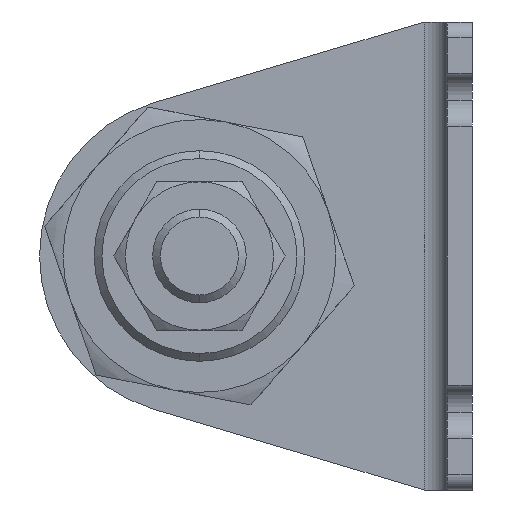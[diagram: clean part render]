
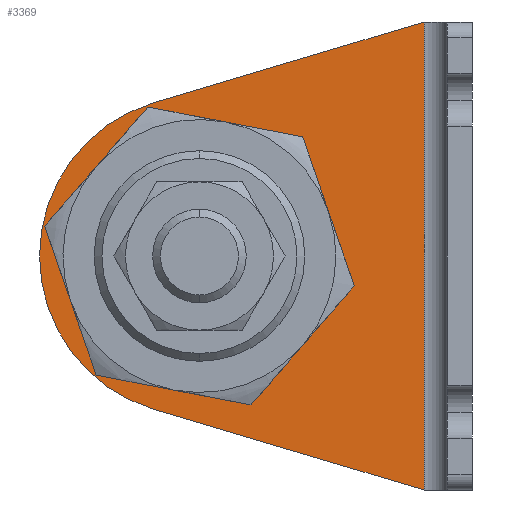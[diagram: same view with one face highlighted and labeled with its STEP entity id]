
A CAD part, left-side view. The second image highlights one B-rep face of the part: STEP entity #3369.
In plain terms, the highlighted planar face has unit normal (-1, 0, 0) as drawn and (1, 0, 0) by its records, which use the part's own axes.
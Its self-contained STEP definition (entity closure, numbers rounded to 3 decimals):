
#1 = CARTESIAN_POINT ( 'NONE',  ( 3.2, 3.446, -60.823 ) ) ;
#60 = AXIS2_PLACEMENT_3D ( 'NONE', #873, #3519, #1527 ) ;
#152 = VERTEX_POINT ( 'NONE', #4277 ) ;
#171 = DIRECTION ( 'NONE',  ( 1., 0., 0. ) ) ;
#172 = CARTESIAN_POINT ( 'NONE',  ( 3.2, 48.5, -30. ) ) ;
#232 = CIRCLE ( 'NONE', #60, 20.5 ) ;
#310 = AXIS2_PLACEMENT_3D ( 'NONE', #1327, #663, #3639 ) ;
#443 = PLANE ( 'NONE',  #1326 ) ;
#498 = CARTESIAN_POINT ( 'NONE',  ( 3.2, 19.903, -4.094 ) ) ;
#536 = DIRECTION ( 'NONE',  ( 0., 0.958, -0.286 ) ) ;
#548 = ORIENTED_EDGE ( 'NONE', *, *, #2509, .F. ) ;
#663 = DIRECTION ( 'NONE',  ( 1., 0., 0. ) ) ;
#873 = CARTESIAN_POINT ( 'NONE',  ( 3.2, 35., -30. ) ) ;
#884 = CARTESIAN_POINT ( 'NONE',  ( 3.2, 35., -30. ) ) ;
#941 = EDGE_CURVE ( 'NONE', #4017, #3509, #4116, .T. ) ;
#968 = DIRECTION ( 'NONE',  ( 0., 0.958, 0.286 ) ) ;
#1098 = LINE ( 'NONE', #1793, #2747 ) ;
#1126 = EDGE_LOOP ( 'NONE', ( #3737, #4254 ) ) ;
#1157 = LINE ( 'NONE', #498, #1408 ) ;
#1267 = EDGE_LOOP ( 'NONE', ( #4235, #3384, #3603, #548, #3635 ) ) ;
#1306 = VERTEX_POINT ( 'NONE', #3205 ) ;
#1326 = AXIS2_PLACEMENT_3D ( 'NONE', #3126, #171, #1749 ) ;
#1327 = CARTESIAN_POINT ( 'NONE',  ( 3.2, 35., -30. ) ) ;
#1408 = VECTOR ( 'NONE', #536, 1000. ) ;
#1527 = DIRECTION ( 'NONE',  ( 0., 1., 0. ) ) ;
#1528 = AXIS2_PLACEMENT_3D ( 'NONE', #3691, #3055, #2032 ) ;
#1749 = DIRECTION ( 'NONE',  ( 0., 1., 0. ) ) ;
#1793 = CARTESIAN_POINT ( 'NONE',  ( 3.2, 6.2, -60. ) ) ;
#1871 = DIRECTION ( 'NONE',  ( 0., 1., 0. ) ) ;
#2032 = DIRECTION ( 'NONE',  ( 0., 1., 0. ) ) ;
#2065 = CARTESIAN_POINT ( 'NONE',  ( 3.2, 40.868, -49.642 ) ) ;
#2282 = CARTESIAN_POINT ( 'NONE',  ( 3.2, 40.868, -10.358 ) ) ;
#2293 = VECTOR ( 'NONE', #968, 1000. ) ;
#2304 = EDGE_CURVE ( 'NONE', #1306, #4017, #3077, .T. ) ;
#2315 = VERTEX_POINT ( 'NONE', #2282 ) ;
#2364 = AXIS2_PLACEMENT_3D ( 'NONE', #884, #2878, #1871 ) ;
#2509 = EDGE_CURVE ( 'NONE', #152, #2315, #1157, .T. ) ;
#2747 = VECTOR ( 'NONE', #4201, 1000. ) ;
#2878 = DIRECTION ( 'NONE',  ( 1., 0., 0. ) ) ;
#2896 = VERTEX_POINT ( 'NONE', #3415 ) ;
#3048 = EDGE_CURVE ( 'NONE', #2896, #4197, #3129, .T. ) ;
#3055 = DIRECTION ( 'NONE',  ( 1., 0., 0. ) ) ;
#3077 = LINE ( 'NONE', #1, #2293 ) ;
#3126 = CARTESIAN_POINT ( 'NONE',  ( 3.2, 3.2, -60. ) ) ;
#3129 = CIRCLE ( 'NONE', #2364, 13.5 ) ;
#3160 = CARTESIAN_POINT ( 'NONE',  ( 3.2, 55.5, -30. ) ) ;
#3205 = CARTESIAN_POINT ( 'NONE',  ( 3.2, 6.2, -60. ) ) ;
#3217 = EDGE_CURVE ( 'NONE', #4197, #2896, #3647, .T. ) ;
#3294 = FACE_OUTER_BOUND ( 'NONE', #1267, .T. ) ;
#3369 = ADVANCED_FACE ( 'NONE', ( #3394, #3294 ), #443, .T. ) ;
#3384 = ORIENTED_EDGE ( 'NONE', *, *, #941, .T. ) ;
#3394 = FACE_BOUND ( 'NONE', #1126, .T. ) ;
#3415 = CARTESIAN_POINT ( 'NONE',  ( 3.2, 21.5, -30. ) ) ;
#3501 = EDGE_CURVE ( 'NONE', #152, #1306, #1098, .T. ) ;
#3509 = VERTEX_POINT ( 'NONE', #3160 ) ;
#3519 = DIRECTION ( 'NONE',  ( 1., 0., 0. ) ) ;
#3603 = ORIENTED_EDGE ( 'NONE', *, *, #4212, .T. ) ;
#3635 = ORIENTED_EDGE ( 'NONE', *, *, #3501, .T. ) ;
#3639 = DIRECTION ( 'NONE',  ( 0., 1., 0. ) ) ;
#3647 = CIRCLE ( 'NONE', #310, 13.5 ) ;
#3691 = CARTESIAN_POINT ( 'NONE',  ( 3.2, 35., -30. ) ) ;
#3737 = ORIENTED_EDGE ( 'NONE', *, *, #3217, .F. ) ;
#4017 = VERTEX_POINT ( 'NONE', #2065 ) ;
#4116 = CIRCLE ( 'NONE', #1528, 20.5 ) ;
#4197 = VERTEX_POINT ( 'NONE', #172 ) ;
#4201 = DIRECTION ( 'NONE',  ( 0., 0., -1. ) ) ;
#4212 = EDGE_CURVE ( 'NONE', #3509, #2315, #232, .T. ) ;
#4235 = ORIENTED_EDGE ( 'NONE', *, *, #2304, .T. ) ;
#4254 = ORIENTED_EDGE ( 'NONE', *, *, #3048, .F. ) ;
#4277 = CARTESIAN_POINT ( 'NONE',  ( 3.2, 6.2, 0. ) ) ;
